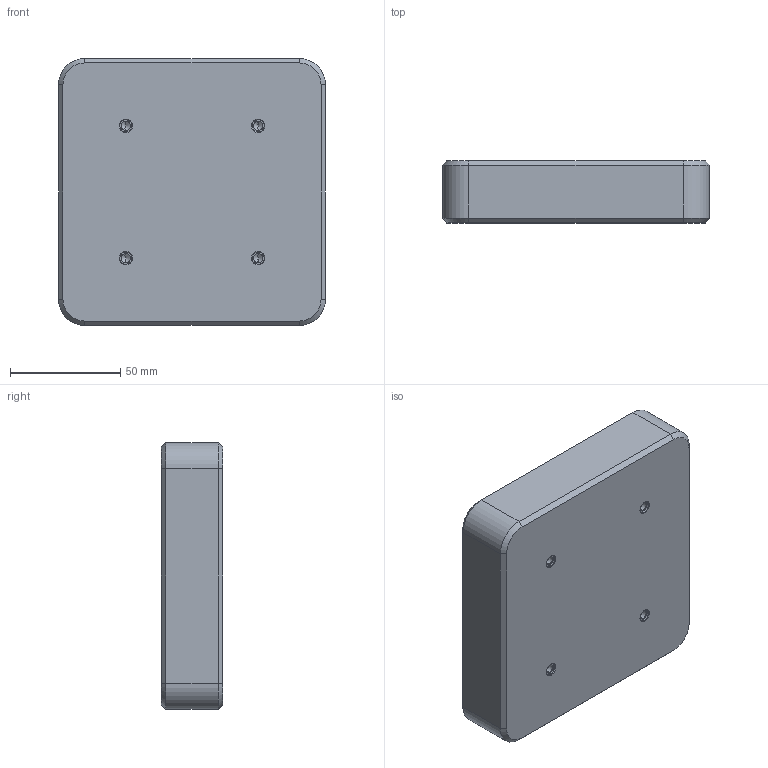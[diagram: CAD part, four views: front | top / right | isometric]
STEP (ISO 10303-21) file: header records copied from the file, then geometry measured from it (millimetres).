
FILE_DESCRIPTION (( 'STEP AP203' ), '1' );
FILE_NAME ('130332.0001.4V-QP022-S-125.STEP', '2016-10-10T09:13:15', ( '' ), ( '' ), 'SwSTEP 2.0', 'SolidWorks 2016', '' );
FILE_SCHEMA (( 'CONFIG_CONTROL_DESIGN' ));
Length unit declared in the file: millimetre
Products named in the file (1): 130332.0001.4V-QP022-S-125
Bounding box: 121 x 28 x 121 mm (x, y, z)
Volume: 403805.1 mm3; surface area: 41670 mm2
Topology: 1 solids, 1 shells, 62 faces, 136 edges, 76 vertices
Faces by surface type: cone 24, cylinder 20, plane 18
Entity records: 1701 total; most frequent: DIRECTION 310, CARTESIAN_POINT 267, ORIENTED_EDGE 256, EDGE_CURVE 128, AXIS2_PLACEMENT_3D 119, VERTEX_POINT 76, LINE 72, VECTOR 72
